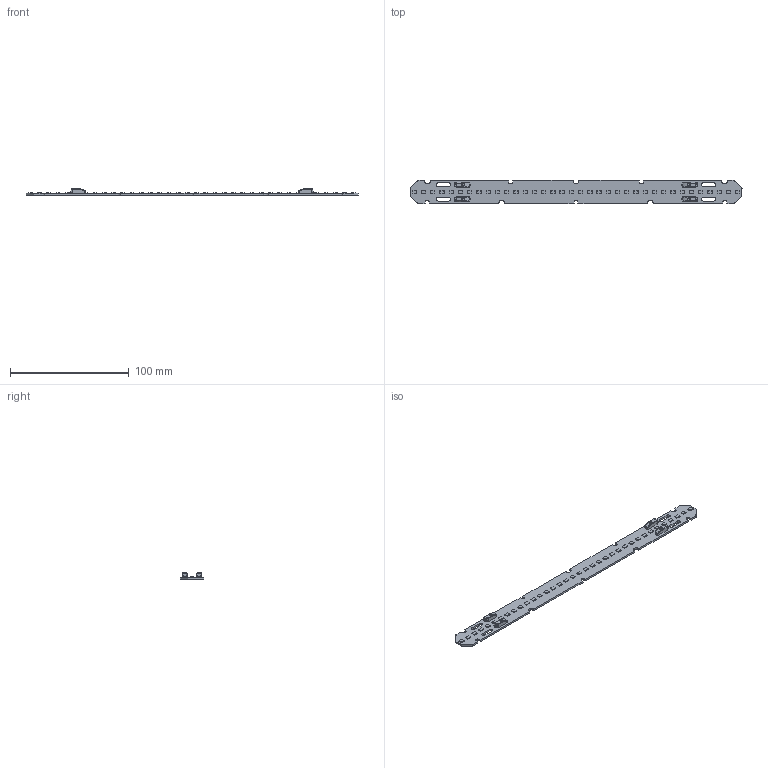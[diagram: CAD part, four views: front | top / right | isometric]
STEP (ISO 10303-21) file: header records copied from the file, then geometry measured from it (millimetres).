
FILE_DESCRIPTION (( 'STEP AP214' ), '1' );
FILE_NAME ('4162936swm000.step', '2020-02-14T15:24:45', ( 'OSRAM' ), ( 'OSRAM' ), 'SwSTEP 2.0', 'SolidWorks 2017', '' );
FILE_SCHEMA (( 'AUTOMOTIVE_DESIGN' ));
Length unit declared in the file: millimetre
Products named in the file (4): 4162936swm000; 3681749swm000; 4162953swm000; 3792700swm000
Assembly tree (6 placements, depth 2):
  4162936swm000
    3681749swm000
    4162953swm000
    3792700swm000  x4
Bounding box: 279.5 x 20 x 5.55 mm (x, y, z)
Volume: 9262.3 mm3; surface area: 13575.1 mm2
Topology: 41 solids, 41 shells, 1130 faces, 2896 edges, 1896 vertices
Faces by surface type: plane 844, cylinder 166, bspline 112, cone 8
Entity records: 31997 total; most frequent: CARTESIAN_POINT 5192, ORIENTED_EDGE 4056, DIRECTION 3581, EDGE_CURVE 2028, LINE 1821, VECTOR 1821, VERTEX_POINT 1344, AXIS2_PLACEMENT_3D 880
